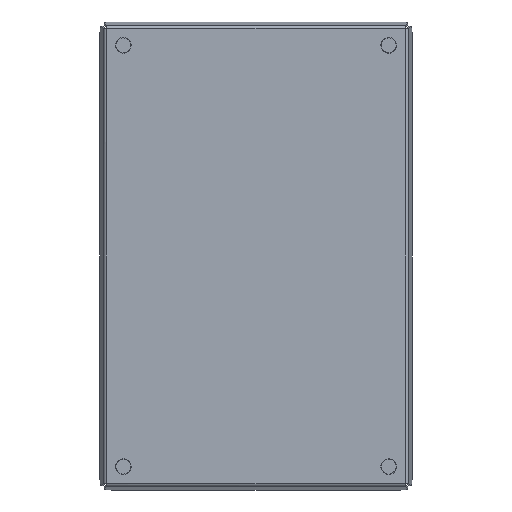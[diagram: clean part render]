
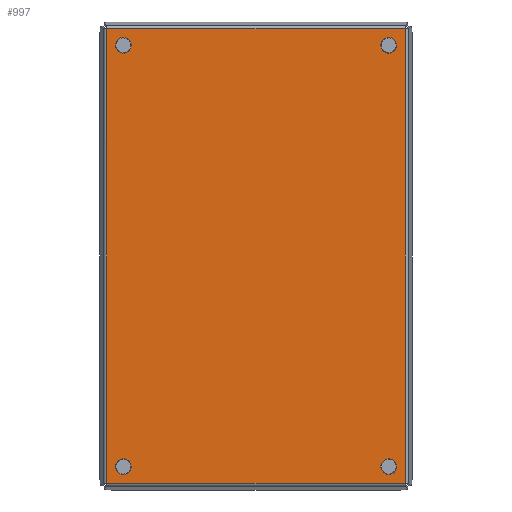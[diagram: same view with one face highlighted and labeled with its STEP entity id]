
A CAD part, front view. The second image highlights one B-rep face of the part: STEP entity #997.
In plain terms, the highlighted planar face has unit normal (0, -1, 0).
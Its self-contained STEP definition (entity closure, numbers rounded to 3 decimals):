
#39=FACE_BOUND('',#316,.T.);
#40=FACE_BOUND('',#317,.T.);
#41=FACE_BOUND('',#318,.T.);
#42=FACE_BOUND('',#319,.T.);
#44=PLANE('',#1089);
#70=LINE('',#1514,#150);
#71=LINE('',#1516,#151);
#72=LINE('',#1518,#152);
#73=LINE('',#1519,#153);
#150=VECTOR('',#1218,10.);
#151=VECTOR('',#1219,10.);
#152=VECTOR('',#1220,10.);
#153=VECTOR('',#1221,10.);
#253=FACE_OUTER_BOUND('',#315,.T.);
#315=EDGE_LOOP('',(#701,#702,#703,#704));
#316=EDGE_LOOP('',(#705,#706));
#317=EDGE_LOOP('',(#707,#708));
#318=EDGE_LOOP('',(#709,#710));
#319=EDGE_LOOP('',(#711,#712));
#377=CIRCLE('',#1076,4.8);
#381=CIRCLE('',#1080,4.8);
#387=CIRCLE('',#1090,4.8);
#388=CIRCLE('',#1091,4.8);
#389=CIRCLE('',#1092,4.8);
#390=CIRCLE('',#1093,4.8);
#391=CIRCLE('',#1094,4.8);
#392=CIRCLE('',#1095,4.8);
#433=VERTEX_POINT('',#1489);
#434=VERTEX_POINT('',#1490);
#441=VERTEX_POINT('',#1512);
#442=VERTEX_POINT('',#1513);
#443=VERTEX_POINT('',#1515);
#444=VERTEX_POINT('',#1517);
#445=VERTEX_POINT('',#1520);
#446=VERTEX_POINT('',#1521);
#447=VERTEX_POINT('',#1524);
#448=VERTEX_POINT('',#1525);
#449=VERTEX_POINT('',#1528);
#450=VERTEX_POINT('',#1529);
#529=EDGE_CURVE('',#433,#434,#377,.T.);
#533=EDGE_CURVE('',#434,#433,#381,.T.);
#540=EDGE_CURVE('',#441,#442,#70,.T.);
#541=EDGE_CURVE('',#442,#443,#71,.T.);
#542=EDGE_CURVE('',#443,#444,#72,.T.);
#543=EDGE_CURVE('',#444,#441,#73,.T.);
#544=EDGE_CURVE('',#445,#446,#387,.T.);
#545=EDGE_CURVE('',#446,#445,#388,.T.);
#546=EDGE_CURVE('',#447,#448,#389,.T.);
#547=EDGE_CURVE('',#448,#447,#390,.T.);
#548=EDGE_CURVE('',#449,#450,#391,.T.);
#549=EDGE_CURVE('',#450,#449,#392,.T.);
#701=ORIENTED_EDGE('',*,*,#540,.T.);
#702=ORIENTED_EDGE('',*,*,#541,.T.);
#703=ORIENTED_EDGE('',*,*,#542,.T.);
#704=ORIENTED_EDGE('',*,*,#543,.T.);
#705=ORIENTED_EDGE('',*,*,#544,.F.);
#706=ORIENTED_EDGE('',*,*,#545,.F.);
#707=ORIENTED_EDGE('',*,*,#546,.F.);
#708=ORIENTED_EDGE('',*,*,#547,.F.);
#709=ORIENTED_EDGE('',*,*,#548,.F.);
#710=ORIENTED_EDGE('',*,*,#549,.F.);
#711=ORIENTED_EDGE('',*,*,#529,.F.);
#712=ORIENTED_EDGE('',*,*,#533,.F.);
#997=ADVANCED_FACE('',(#253,#39,#40,#41,#42),#44,.F.);
#1076=AXIS2_PLACEMENT_3D('',#1491,#1189,#1190);
#1080=AXIS2_PLACEMENT_3D('',#1497,#1197,#1198);
#1089=AXIS2_PLACEMENT_3D('',#1511,#1216,#1217);
#1090=AXIS2_PLACEMENT_3D('',#1522,#1222,#1223);
#1091=AXIS2_PLACEMENT_3D('',#1523,#1224,#1225);
#1092=AXIS2_PLACEMENT_3D('',#1526,#1226,#1227);
#1093=AXIS2_PLACEMENT_3D('',#1527,#1228,#1229);
#1094=AXIS2_PLACEMENT_3D('',#1530,#1230,#1231);
#1095=AXIS2_PLACEMENT_3D('',#1531,#1232,#1233);
#1189=DIRECTION('center_axis',(0.,-1.,0.));
#1190=DIRECTION('ref_axis',(0.,0.,1.));
#1197=DIRECTION('center_axis',(0.,-1.,0.));
#1198=DIRECTION('ref_axis',(0.,0.,1.));
#1216=DIRECTION('center_axis',(0.,1.,0.));
#1217=DIRECTION('ref_axis',(0.,0.,
-1.));
#1218=DIRECTION('',(-1.,0.,0.));
#1219=DIRECTION('',(0.,0.,-1.));
#1220=DIRECTION('',(1.,0.,0.));
#1221=DIRECTION('',(0.,0.,1.));
#1222=DIRECTION('center_axis',(0.,-1.,0.));
#1223=DIRECTION('ref_axis',(0.,0.,1.));
#1224=DIRECTION('center_axis',(0.,-1.,0.));
#1225=DIRECTION('ref_axis',(0.,0.,1.));
#1226=DIRECTION('center_axis',(0.,-1.,0.));
#1227=DIRECTION('ref_axis',(0.,0.,1.));
#1228=DIRECTION('center_axis',(0.,-1.,0.));
#1229=DIRECTION('ref_axis',(0.,0.,1.));
#1230=DIRECTION('center_axis',(0.,-1.,0.));
#1231=DIRECTION('ref_axis',(0.,0.,1.));
#1232=DIRECTION('center_axis',(0.,-1.,0.));
#1233=DIRECTION('ref_axis',(0.,0.,1.));
#1489=CARTESIAN_POINT('',(-87.296,2.,-139.375));
#1490=CARTESIAN_POINT('',(-89.375,2.,-132.913));
#1491=CARTESIAN_POINT('Origin',(-85.105,2.,-135.105));
#1497=CARTESIAN_POINT('Origin',(-85.105,2.,-135.105));
#1511=CARTESIAN_POINT('Origin',(0.,2.,0.));
#1512=CARTESIAN_POINT('',(95.822,2.,145.822));
#1513=CARTESIAN_POINT('',(-95.822,2.,145.822));
#1514=CARTESIAN_POINT('',(47.911,2.,145.822));
#1515=CARTESIAN_POINT('',(-95.822,2.,-145.822));
#1516=CARTESIAN_POINT('',(-95.822,2.,72.911));
#1517=CARTESIAN_POINT('',(95.822,2.,-145.822));
#1518=CARTESIAN_POINT('',(-47.911,2.,-145.822));
#1519=CARTESIAN_POINT('',(95.822,2.,-72.911));
#1520=CARTESIAN_POINT('',(-80.849,2.,137.325));
#1521=CARTESIAN_POINT('',(-82.884,2.,130.849));
#1522=CARTESIAN_POINT('Origin',(-85.105,2.,135.105));
#1523=CARTESIAN_POINT('Origin',(-85.105,2.,135.105));
#1524=CARTESIAN_POINT('',(80.449,2.,-136.272));
#1525=CARTESIAN_POINT('',(83.937,2.,-130.449));
#1526=CARTESIAN_POINT('Origin',(85.105,2.,-135.105));
#1527=CARTESIAN_POINT('Origin',(85.105,2.,-135.105));
#1528=CARTESIAN_POINT('',(85.764,2.,139.859));
#1529=CARTESIAN_POINT('',(89.859,2.,134.446));
#1530=CARTESIAN_POINT('Origin',(85.105,2.,135.105));
#1531=CARTESIAN_POINT('Origin',(85.105,2.,135.105));
